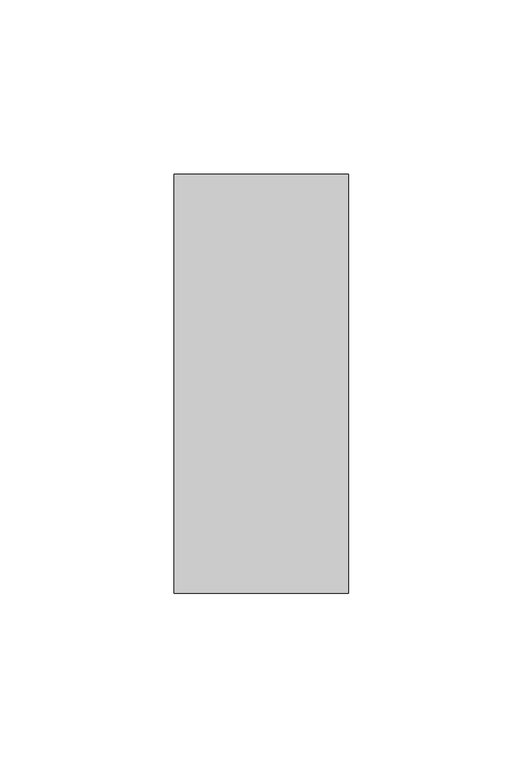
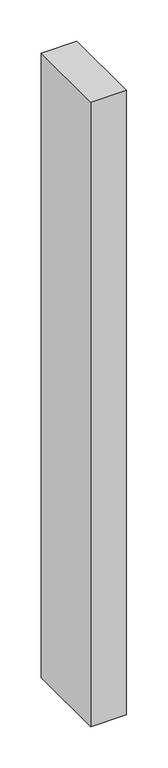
"""IFC4 building model written with IfcOpenShell, lengths in millimetres: member geometry, Прямоугольный импост : 50х120 мм."""

from ifc_helpers import new_model, si_unit, frame, origin, place, context, project, spatial, polyline, outline, extrude, source, transform, mapped, element, save


def member_cc15da06(model_context):
    return source(origin(), model_context, "Body", "SweptSolid", [
        extrude(outline(polyline([(25.0, 60.0), (25.0, -60.0), (-25.0, -60.0), (-25.0, 60.0), (25.0, 60.0)])), frame((0.0, 0.0, -925.0), z_axis=(0.0, 0.0, 1.0), x_axis=(1.0, 0.0, 0.0)), (0.0, 0.0, 1.0), 925.0),
    ])


if __name__ == "__main__":
    model = new_model("IFC4")
    model_context = context("Model", 3, world=origin())
    ifc_project = project(units=[si_unit("LENGTHUNIT", "METRE", prefix="MILLI")], contexts=[model_context])
    site = spatial("IfcSite", under=ifc_project)
    building = spatial("IfcBuilding", under=site)
    placement = place(None, origin())
    member_shape = member_cc15da06(model_context)
    element("IfcMember", 1, ObjectType="Прямоугольный импост : 50х120 мм", at=placement, inside=building, context=model_context, shape_type="MappedRepresentation", body=[
        mapped(member_shape, transform((0.0, 0.0, 0.0), x_axis=(1.0, 0.0, 0.0), y_axis=(0.0, 1.0, 0.0), z_axis=(0.0, 0.0, 1.0))),
    ])
    save(model, "model.ifc")
